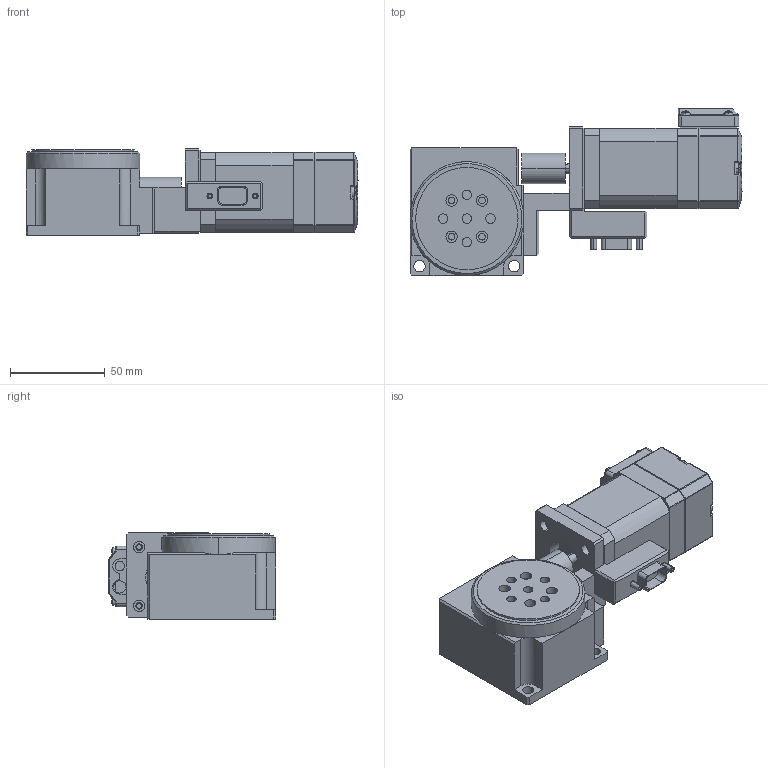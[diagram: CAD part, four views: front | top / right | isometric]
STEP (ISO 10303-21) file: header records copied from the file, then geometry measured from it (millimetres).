
FILE_DESCRIPTION (( 'STEP AP203' ), '1' );
FILE_NAME ('电动60转台加雷赛电机.STEP', '2022-04-17T05:53:09', ( '' ), ( '' ), 'SwSTEP 2.0', 'SolidWorks 2017', '' );
FILE_SCHEMA (( 'CONFIG_CONTROL_DESIGN' ));
Length unit declared in the file: millimetre
Products named in the file (1): 电动60转台加雷赛电机
Bounding box: 175.2 x 88.15 x 45.5 mm (x, y, z)
Surface area: 52644.3 mm2 (no closed solid volume)
Topology: 0 solids, 29 shells, 729 faces, 3415 edges, 2670 vertices
Faces by surface type: plane 403, cylinder 233, bspline 53, sphere 21, torus 12, cone 7
Entity records: 40069 total; most frequent: CARTESIAN_POINT 14611, ORIENTED_EDGE 4941, DIRECTION 4509, EDGE_CURVE 3400, VERTEX_POINT 2669, VECTOR 1903, LINE 1903, AXIS2_PLACEMENT_3D 1303
